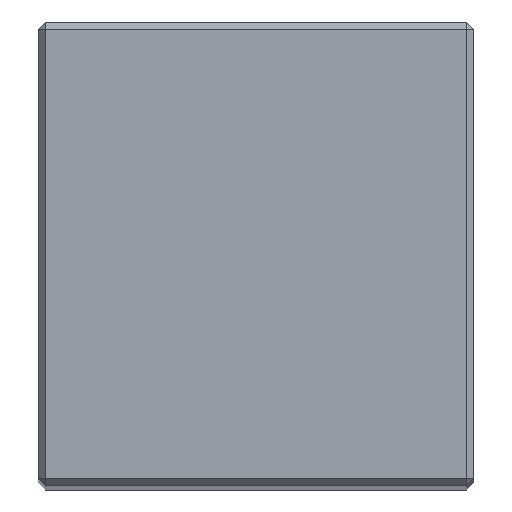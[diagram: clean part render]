
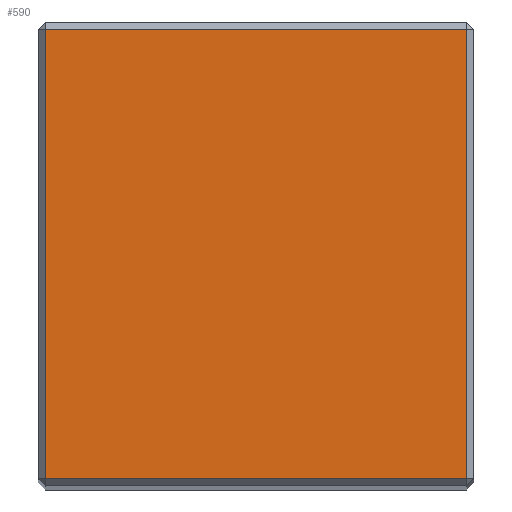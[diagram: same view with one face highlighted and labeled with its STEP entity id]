
A CAD part, top view. The second image highlights one B-rep face of the part: STEP entity #590.
In plain terms, the highlighted planar face has unit normal (0, 0, 1).
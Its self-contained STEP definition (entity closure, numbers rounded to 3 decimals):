
#5 = LINE ( 'NONE', #250, #263 ) ;
#37 = VECTOR ( 'NONE', #232, 1000. ) ;
#45 = DIRECTION ( 'NONE',  ( -1., 0., 0. ) ) ;
#47 = LINE ( 'NONE', #217, #37 ) ;
#50 = CARTESIAN_POINT ( 'NONE',  ( 31., 66., 198. ) ) ;
#58 = CARTESIAN_POINT ( 'NONE',  ( -30., 65., 198. ) ) ;
#61 = AXIS2_PLACEMENT_3D ( 'NONE', #50, #569, #45 ) ;
#96 = PLANE ( 'NONE',  #61 ) ;
#111 = VERTEX_POINT ( 'NONE', #409 ) ;
#128 = VERTEX_POINT ( 'NONE', #201 ) ;
#130 = EDGE_CURVE ( 'NONE', #128, #584, #5, .T. ) ;
#144 = VERTEX_POINT ( 'NONE', #628 ) ;
#167 = LINE ( 'NONE', #213, #422 ) ;
#190 = DIRECTION ( 'NONE',  ( -1., 0., 0. ) ) ;
#201 = CARTESIAN_POINT ( 'NONE',  ( 30., 65., 198. ) ) ;
#213 = CARTESIAN_POINT ( 'NONE',  ( 31., 1., 198. ) ) ;
#217 = CARTESIAN_POINT ( 'NONE',  ( -30., 66., 198. ) ) ;
#223 = ORIENTED_EDGE ( 'NONE', *, *, #453, .T. ) ;
#232 = DIRECTION ( 'NONE',  ( 0., -1., 0. ) ) ;
#250 = CARTESIAN_POINT ( 'NONE',  ( -31., 65., 198. ) ) ;
#252 = VECTOR ( 'NONE', #367, 1000. ) ;
#263 = VECTOR ( 'NONE', #190, 1000. ) ;
#284 = ORIENTED_EDGE ( 'NONE', *, *, #130, .T. ) ;
#326 = EDGE_CURVE ( 'NONE', #111, #128, #511, .T. ) ;
#332 = EDGE_LOOP ( 'NONE', ( #284, #587, #223, #627 ) ) ;
#367 = DIRECTION ( 'NONE',  ( 0., 1., 0. ) ) ;
#384 = DIRECTION ( 'NONE',  ( 1., 0., 0. ) ) ;
#389 = CARTESIAN_POINT ( 'NONE',  ( 30., 66., 198. ) ) ;
#409 = CARTESIAN_POINT ( 'NONE',  ( 30., 1., 198. ) ) ;
#422 = VECTOR ( 'NONE', #384, 1000. ) ;
#443 = EDGE_CURVE ( 'NONE', #584, #144, #47, .T. ) ;
#453 = EDGE_CURVE ( 'NONE', #144, #111, #167, .T. ) ;
#511 = LINE ( 'NONE', #389, #252 ) ;
#569 = DIRECTION ( 'NONE',  ( 0., 0., -1. ) ) ;
#572 = FACE_OUTER_BOUND ( 'NONE', #332, .T. ) ;
#584 = VERTEX_POINT ( 'NONE', #58 ) ;
#587 = ORIENTED_EDGE ( 'NONE', *, *, #443, .T. ) ;
#590 = ADVANCED_FACE ( 'NONE', ( #572 ), #96, .F. ) ;
#627 = ORIENTED_EDGE ( 'NONE', *, *, #326, .T. ) ;
#628 = CARTESIAN_POINT ( 'NONE',  ( -30., 1., 198. ) ) ;
